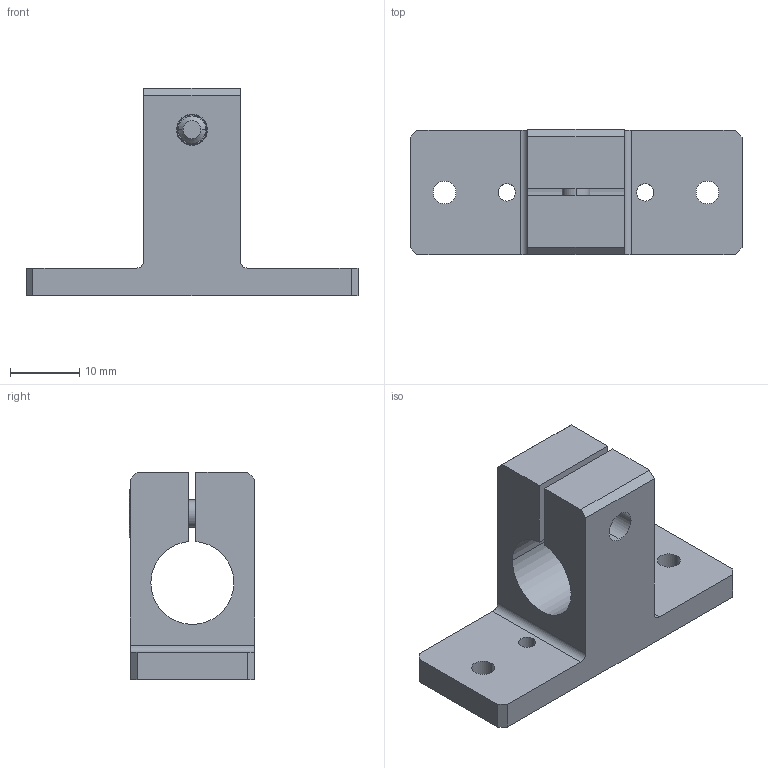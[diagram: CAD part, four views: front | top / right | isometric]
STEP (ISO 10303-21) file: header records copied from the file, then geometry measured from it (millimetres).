
FILE_DESCRIPTION (( 'STEP AP214' ), '1' );
FILE_NAME ('SMBU4-12T.STEP', '2023-01-05T01:58:46', ( 'Windows User' ), ( 'P R C' ), 'SwSTEP 2.0', 'SolidWorks 2018', '' );
FILE_SCHEMA (( 'AUTOMOTIVE_DESIGN' ));
Length unit declared in the file: millimetre
Products named in the file (1): SMBU4-12T
Bounding box: 48 x 18.1 x 30 mm (x, y, z)
Volume: 8006 mm3; surface area: 5113.5 mm2
Topology: 3 solids, 3 shells, 253 faces, 728 edges, 482 vertices
Faces by surface type: plane 222, cylinder 27, cone 2, bspline 2
Entity records: 11312 total; most frequent: CARTESIAN_POINT 1588, DIRECTION 1470, ORIENTED_EDGE 1456, EDGE_CURVE 728, AXIS2_PLACEMENT_3D 494, VECTOR 482, VERTEX_POINT 482, LINE 482
